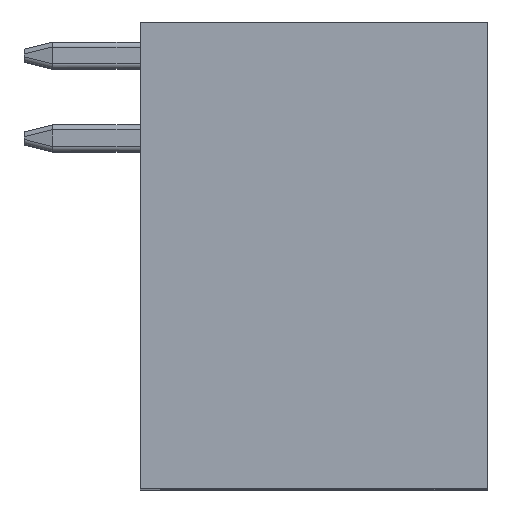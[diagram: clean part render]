
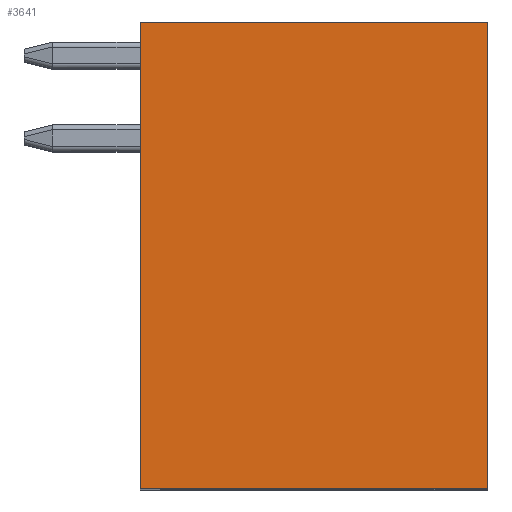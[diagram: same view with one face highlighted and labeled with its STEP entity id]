
A CAD part, top view. The second image highlights one B-rep face of the part: STEP entity #3641.
In plain terms, the highlighted planar face has unit normal (0, 0, 1).
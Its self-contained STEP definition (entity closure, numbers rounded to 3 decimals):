
#2598 = EDGE_CURVE ( 'NONE', #37618, #37890, #22900, .T. ) ;
#3641 = ADVANCED_FACE ( 'NONE', ( #22051 ), #22052, .T. ) ;
#4936 = EDGE_LOOP ( 'NONE', ( #5737, #5739, #5741, #5743 ) ) ;
#5737 = ORIENTED_EDGE ( 'NONE', *, *, #32115, .F. ) ;
#5739 = ORIENTED_EDGE ( 'NONE', *, *, #32118, .T. ) ;
#5741 = ORIENTED_EDGE ( 'NONE', *, *, #32120, .T. ) ;
#5743 = ORIENTED_EDGE ( 'NONE', *, *, #2598, .T. ) ;
#19158 = VERTEX_POINT ( 'NONE', #26534 ) ;
#19240 = VERTEX_POINT ( 'NONE', #26678 ) ;
#21510 = VECTOR ( 'NONE', #34029, 1000. ) ;
#21512 = VECTOR ( 'NONE', #34032, 1000. ) ;
#21513 = VECTOR ( 'NONE', #34035, 1000. ) ;
#22048 = CARTESIAN_POINT ( 'NONE',  ( 8.764, 7.05, 3.5 ) ) ;
#22051 = FACE_OUTER_BOUND ( 'NONE', #4936, .T. ) ;
#22052 = PLANE ( 'NONE',  #29220 ) ;
#22054 = DIRECTION ( 'NONE',  ( 0., 0., 1. ) ) ;
#22055 = DIRECTION ( 'NONE',  ( 1., 0., 0. ) ) ;
#22900 = LINE ( 'NONE', #22913, #29393 ) ;
#22913 = CARTESIAN_POINT ( 'NONE',  ( 14.014, 7.05, 3.5 ) ) ;
#22915 = DIRECTION ( 'NONE',  ( 0., 1., 0. ) ) ;
#26534 = CARTESIAN_POINT ( 'NONE',  ( 3.514, 14.1, 3.5 ) ) ;
#26678 = CARTESIAN_POINT ( 'NONE',  ( 3.514, 0., 3.5 ) ) ;
#29220 = AXIS2_PLACEMENT_3D ( 'NONE', #22048, #22054, #22055 ) ;
#29393 = VECTOR ( 'NONE', #22915, 1000. ) ;
#32115 = EDGE_CURVE ( 'NONE', #19158, #37890, #34019, .T. ) ;
#32118 = EDGE_CURVE ( 'NONE', #19158, #19240, #34030, .T. ) ;
#32120 = EDGE_CURVE ( 'NONE', #19240, #37618, #34033, .T. ) ;
#34019 = LINE ( 'NONE', #34020, #21510 ) ;
#34020 = CARTESIAN_POINT ( 'NONE',  ( 8.764, 14.1, 3.5 ) ) ;
#34029 = DIRECTION ( 'NONE',  ( 1., 0., 0. ) ) ;
#34030 = LINE ( 'NONE', #34031, #21512 ) ;
#34031 = CARTESIAN_POINT ( 'NONE',  ( 3.514, 7.05, 3.5 ) ) ;
#34032 = DIRECTION ( 'NONE',  ( 0., -1., 0. ) ) ;
#34033 = LINE ( 'NONE', #34034, #21513 ) ;
#34034 = CARTESIAN_POINT ( 'NONE',  ( 8.764, 0., 3.5 ) ) ;
#34035 = DIRECTION ( 'NONE',  ( 1., 0., 0. ) ) ;
#36898 = CARTESIAN_POINT ( 'NONE',  ( 14.014, 0., 3.5 ) ) ;
#37170 = CARTESIAN_POINT ( 'NONE',  ( 14.014, 14.1, 3.5 ) ) ;
#37618 = VERTEX_POINT ( 'NONE', #36898 ) ;
#37890 = VERTEX_POINT ( 'NONE', #37170 ) ;
